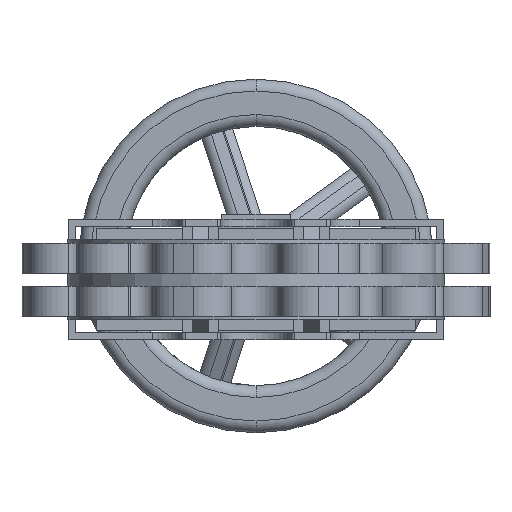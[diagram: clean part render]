
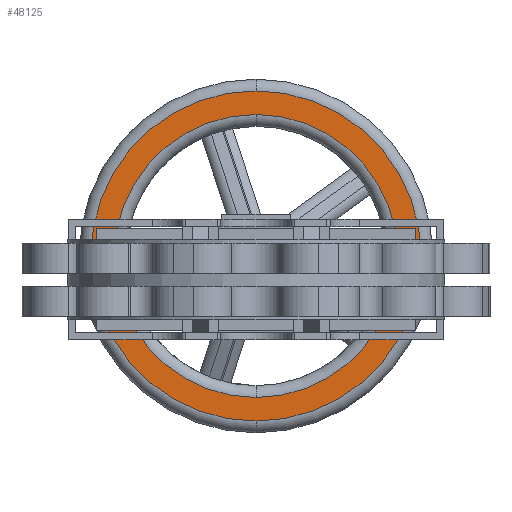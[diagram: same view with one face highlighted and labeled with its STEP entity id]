
A CAD part, front view. The second image highlights one B-rep face of the part: STEP entity #48125.
In plain terms, the highlighted planar face has unit normal (0, -1, 0).
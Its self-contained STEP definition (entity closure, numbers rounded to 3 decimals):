
#1432 = PLANE ( 'NONE',  #18080 ) ;
#1595 = ORIENTED_EDGE ( 'NONE', *, *, #41052, .T. ) ;
#2372 = CARTESIAN_POINT ( 'NONE',  ( 0., 706., 14.5 ) ) ;
#2545 = DIRECTION ( 'NONE',  ( 0., 1., 0. ) ) ;
#2769 = DIRECTION ( 'NONE',  ( 0., 1., 0. ) ) ;
#4036 = VERTEX_POINT ( 'NONE', #45713 ) ;
#4629 = CARTESIAN_POINT ( 'NONE',  ( 0., 706., 14.5 ) ) ;
#5187 = CARTESIAN_POINT ( 'NONE',  ( 0., 706., 14.5 ) ) ;
#5252 = CARTESIAN_POINT ( 'NONE',  ( 0., 706., -125.5 ) ) ;
#5882 = VERTEX_POINT ( 'NONE', #37237 ) ;
#8025 = VERTEX_POINT ( 'NONE', #45082 ) ;
#10039 = CARTESIAN_POINT ( 'NONE',  ( 0., 706., 14.5 ) ) ;
#10201 = DIRECTION ( 'NONE',  ( 0., 0., 1. ) ) ;
#10940 = EDGE_CURVE ( 'NONE', #4036, #5882, #28461, .T. ) ;
#14282 = DIRECTION ( 'NONE',  ( 0., 0., 1. ) ) ;
#15459 = FACE_OUTER_BOUND ( 'NONE', #27069, .T. ) ;
#15944 = CIRCLE ( 'NONE', #21870, 140. ) ;
#16523 = EDGE_CURVE ( 'NONE', #8025, #22322, #46124, .T. ) ;
#18080 = AXIS2_PLACEMENT_3D ( 'NONE', #5187, #31248, #31092 ) ;
#19429 = DIRECTION ( 'NONE',  ( 0., 0., 1. ) ) ;
#21434 = CARTESIAN_POINT ( 'NONE',  ( 0., 706., 14.5 ) ) ;
#21854 = FACE_BOUND ( 'NONE', #22413, .T. ) ;
#21870 = AXIS2_PLACEMENT_3D ( 'NONE', #4629, #26512, #19429 ) ;
#22322 = VERTEX_POINT ( 'NONE', #5252 ) ;
#22371 = ORIENTED_EDGE ( 'NONE', *, *, #30120, .T. ) ;
#22413 = EDGE_LOOP ( 'NONE', ( #1595, #23051 ) ) ;
#23051 = ORIENTED_EDGE ( 'NONE', *, *, #10940, .T. ) ;
#25101 = AXIS2_PLACEMENT_3D ( 'NONE', #10039, #2545, #14282 ) ;
#26512 = DIRECTION ( 'NONE',  ( 0., -1., 0. ) ) ;
#26729 = CIRCLE ( 'NONE', #25101, 120. ) ;
#27069 = EDGE_LOOP ( 'NONE', ( #45624, #22371 ) ) ;
#28208 = DIRECTION ( 'NONE',  ( 0., 0., 1. ) ) ;
#28461 = CIRCLE ( 'NONE', #46155, 120. ) ;
#30120 = EDGE_CURVE ( 'NONE', #22322, #8025, #15944, .T. ) ;
#31092 = DIRECTION ( 'NONE',  ( 0., 0., 1. ) ) ;
#31248 = DIRECTION ( 'NONE',  ( 0., 1., 0. ) ) ;
#31511 = AXIS2_PLACEMENT_3D ( 'NONE', #2372, #32348, #10201 ) ;
#32348 = DIRECTION ( 'NONE',  ( 0., -1., 0. ) ) ;
#37237 = CARTESIAN_POINT ( 'NONE',  ( 0., 706., 134.5 ) ) ;
#41052 = EDGE_CURVE ( 'NONE', #5882, #4036, #26729, .T. ) ;
#45082 = CARTESIAN_POINT ( 'NONE',  ( 0., 706., 154.5 ) ) ;
#45624 = ORIENTED_EDGE ( 'NONE', *, *, #16523, .T. ) ;
#45713 = CARTESIAN_POINT ( 'NONE',  ( 0., 706., -105.5 ) ) ;
#46124 = CIRCLE ( 'NONE', #31511, 140. ) ;
#46155 = AXIS2_PLACEMENT_3D ( 'NONE', #21434, #2769, #28208 ) ;
#48125 = ADVANCED_FACE ( 'NONE', ( #21854, #15459 ), #1432, .F. ) ;
